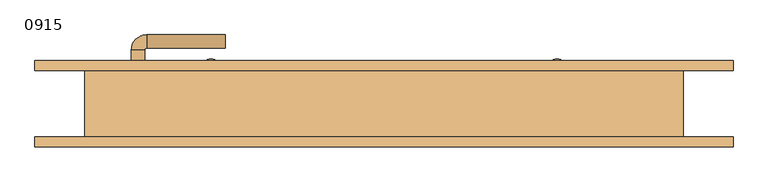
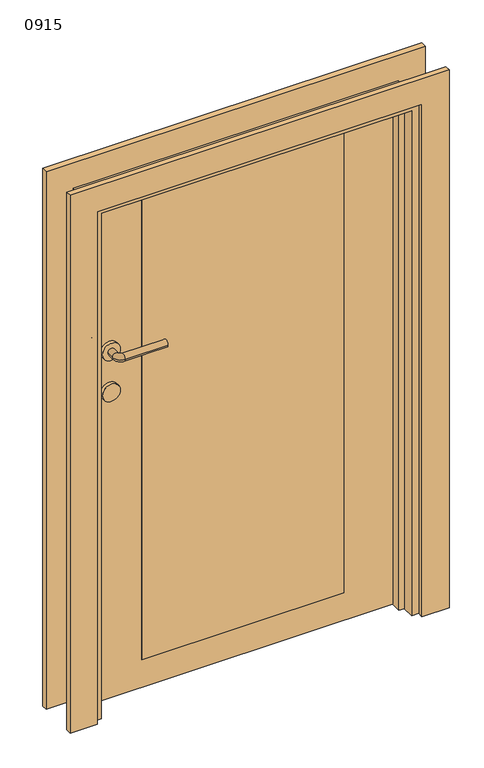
"""IFC4 building model written with IfcOpenShell, lengths in millimetres: door geometry, 单扇平开门-木门 : 0915."""

from ifc_helpers import new_model, si_unit, point, frame, frame_2d, origin, origin_with_axes, place, context, project, spatial, polyline, circle_curve, ellipse_curve, trimmed, segment, composite_curve, outline, extrude, faceted_brep, source, transform, mapped, element, save
from ifc_brep_helpers import plane_surface, cylinder_surface, revolved_surface, advanced_brep


def door_0915_3157fd55(model_context):
    return source(origin(), model_context, "Body", "SolidModel", [
        extrude(outline(composite_curve([segment(trimmed(circle_curve(frame_2d((900.0, -370.0)), 25.0), [point((900.0, -345.0))], [point((900.0, -395.0))], False, "CARTESIAN"), True, "CONTINUOUS"), segment(trimmed(circle_curve(frame_2d((900.0, -370.0)), 25.0), [point((900.0, -395.0))], [point((900.0, -345.0))], False, "CARTESIAN"), True, "CONTINUOUS")], self_intersect=False)), frame((0.0, 5.0, 0.0), z_axis=(0.0, 1.0, 0.0), x_axis=(0.0, 0.0, 1.0)), (0.0, 0.0, 1.0), 10.0),
        extrude(outline(composite_curve([segment(trimmed(circle_curve(frame_2d((900.0, -370.0)), 25.0), [point((900.0, -345.0))], [point((900.0, -395.0))], False, "CARTESIAN"), True, "CONTINUOUS"), segment(trimmed(circle_curve(frame_2d((900.0, -370.0)), 25.0), [point((900.0, -395.0))], [point((900.0, -345.0))], False, "CARTESIAN"), True, "CONTINUOUS")], self_intersect=False)), frame((0.0, 50.0, 0.0), z_axis=(0.0, 1.0, 0.0), x_axis=(0.0, 0.0, 1.0)), (0.0, 0.0, 1.0), 10.0),
        advanced_brep(
        [(-380.0, 5.0, 1020.0), (-360.0, 5.0, 1020.0), (-360.0, -15.613355, 1020.0), (-380.0, -15.613355, 1020.0), (-238.419036, -38.580964, 1020.0), (-238.419036, -18.580964, 1020.0), (-357.0323911, -18.580964, 1020.0), (-357.0323911, -38.580964, 1020.0)],
        [
            (0, 1, circle_curve(frame((-370.0, 5.0, 1020.0), z_axis=(0.0, 1.0, 0.0), x_axis=(1.0, 0.0, 0.0)), 10.0)),
            (1, 0, circle_curve(frame((-370.0, 5.0, 1020.0), z_axis=(0.0, 1.0, 0.0), x_axis=(1.0, 0.0, 0.0)), 10.0)),
            (1, 2),
            (2, 3, circle_curve(frame((-370.0, -15.613355, 1020.0), z_axis=(0.0, 1.0, 0.0), x_axis=(1.0, 0.0, 0.0)), 10.0)),
            (3, 0),
            (3, 2, circle_curve(frame((-370.0, -15.613355, 1020.0), z_axis=(0.0, 1.0, 0.0), x_axis=(1.0, 0.0, 0.0)), 10.0)),
            (4, 5, circle_curve(frame((-238.419036, -28.580964, 1020.0), z_axis=(1.0, 0.0, 0.0), x_axis=(0.0, 1.0, 0.0)), 10.0)),
            (5, 4, circle_curve(frame((-238.419036, -28.580964, 1020.0), z_axis=(1.0, 0.0, 0.0), x_axis=(0.0, 1.0, 0.0)), 10.0)),
            (6, 2, circle_curve(frame((-357.0323911, -15.613355, 1020.0), z_axis=(0.0, 0.0, -1.0), x_axis=(-1.0, 0.0, 0.0)), 2.9676089)),
            (3, 7, circle_curve(frame((-357.0323911, -15.613355, 1020.0), z_axis=(0.0, 0.0, 1.0), x_axis=(-1.0, 0.0, 0.0)), 22.9676089)),
            (7, 6, circle_curve(frame((-357.0323911, -28.580964, 1020.0), z_axis=(-1.0, 0.0, 0.0), x_axis=(0.0, 1.0, 0.0)), 10.0)),
            (6, 7, circle_curve(frame((-357.0323911, -28.580964, 1020.0), z_axis=(-1.0, 0.0, 0.0), x_axis=(0.0, 1.0, 0.0)), 10.0)),
            (7, 4),
            (5, 6),
        ],
        [
            plane_surface(frame((-370.0, 5.0, 900.0), z_axis=(0.0, 1.0, 0.0), x_axis=(0.0, 0.0, 1.0))),
            cylinder_surface(frame((-370.0, 5.0, 1020.0), z_axis=(0.0, 1.0, 0.0), x_axis=(1.0, 0.0, 0.0)), 10.0),
            plane_surface(frame((-238.419036, -28.580964, 900.0), z_axis=(1.0, 0.0, 0.0), x_axis=(0.0, 0.0, 1.0))),
            revolved_surface(trimmed(ellipse_curve(frame((-370.0, -15.613355, 1020.0), z_axis=(0.0, 1.0, 0.0), x_axis=(1.0, 0.0, 0.0)), 10.0, 10.0), [point((-380.0, -15.613355, 1020.0))], [point((-360.0, -15.613355, 1020.0))], True, "CARTESIAN"), (-357.0323911, -15.613355, 900.0), (0.0, 0.0, 1.0)),
            revolved_surface(trimmed(ellipse_curve(frame((-370.0, -15.613355, 1020.0), z_axis=(0.0, 1.0, 0.0), x_axis=(1.0, 0.0, 0.0)), 10.0, 10.0), [point((-360.0, -15.613355, 1020.0))], [point((-380.0, -15.613355, 1020.0))], True, "CARTESIAN"), (-357.0323911, -15.613355, 900.0), (0.0, 0.0, 1.0)),
            cylinder_surface(frame((-357.0323911, -28.580964, 1020.0), z_axis=(-1.0, 0.0, 0.0), x_axis=(0.0, 1.0, 0.0)), 10.0),
        ],
        [
            (0, [[1, 2]]),
            (1, [[-2, 3, 4, 5]]),
            (1, [[-1, -5, 6, -3]]),
            (2, [[7, 8]]),
            (3, [[9, -6, 10, 11]]),
            (4, [[-10, -4, -9, 12]]),
            (5, [[-11, 13, -8, 14]]),
            (5, [[-12, -14, -7, -13]]),
        ],
    ),
        extrude(outline(composite_curve([segment(trimmed(circle_curve(frame_2d((1020.0, -370.0)), 25.0), [point((1020.0, -345.0))], [point((1020.0, -395.0))], False, "CARTESIAN"), True, "CONTINUOUS"), segment(trimmed(circle_curve(frame_2d((1020.0, -370.0)), 25.0), [point((1020.0, -395.0))], [point((1020.0, -345.0))], False, "CARTESIAN"), True, "CONTINUOUS")], self_intersect=False)), frame((0.0, 5.0, 0.0), z_axis=(0.0, 1.0, 0.0), x_axis=(0.0, 0.0, 1.0)), (0.0, 0.0, 1.0), 10.0),
        advanced_brep(
        [(-360.0, 60.0, 1020.0), (-380.0, 60.0, 1020.0), (-360.0, 80.6133551, 1020.0), (-380.0, 80.6133551, 1020.0), (-238.419036, 83.580964, 1020.0), (-238.419036, 103.580964, 1020.0), (-357.0323911, 103.580964, 1020.0), (-357.0323911, 83.580964, 1020.0)],
        [
            (0, 1, circle_curve(frame((-370.0, 60.0, 1020.0), z_axis=(0.0, -1.0, 0.0), x_axis=(-1.0, 0.0, 0.0)), 10.0)),
            (1, 0, circle_curve(frame((-370.0, 60.0, 1020.0), z_axis=(0.0, -1.0, 0.0), x_axis=(-1.0, 0.0, 0.0)), 10.0)),
            (0, 2),
            (2, 3, circle_curve(frame((-370.0, 80.6133551, 1020.0), z_axis=(0.0, -1.0, 0.0), x_axis=(-1.0, 0.0, 0.0)), 10.0)),
            (3, 1),
            (3, 2, circle_curve(frame((-370.0, 80.6133551, 1020.0), z_axis=(0.0, -1.0, 0.0), x_axis=(-1.0, 0.0, 0.0)), 10.0)),
            (4, 5, circle_curve(frame((-238.419036, 93.580964, 1020.0), z_axis=(1.0, 0.0, 0.0), x_axis=(0.0, 1.0, 0.0)), 10.0)),
            (5, 4, circle_curve(frame((-238.419036, 93.580964, 1020.0), z_axis=(1.0, 0.0, 0.0), x_axis=(0.0, 1.0, 0.0)), 10.0)),
            (6, 3, circle_curve(frame((-357.0323911, 80.6133551, 1020.0), z_axis=(0.0, 0.0, 1.0), x_axis=(-1.0, 0.0, 0.0)), 22.9676089)),
            (2, 7, circle_curve(frame((-357.0323911, 80.6133551, 1020.0), z_axis=(0.0, 0.0, -1.0), x_axis=(-1.0, 0.0, 0.0)), 2.9676089)),
            (7, 6, circle_curve(frame((-357.0323911, 93.580964, 1020.0), z_axis=(-1.0, 0.0, 0.0), x_axis=(0.0, 1.0, 0.0)), 10.0)),
            (6, 7, circle_curve(frame((-357.0323911, 93.580964, 1020.0), z_axis=(-1.0, 0.0, 0.0), x_axis=(0.0, 1.0, 0.0)), 10.0)),
            (7, 4),
            (5, 6),
        ],
        [
            plane_surface(frame((-370.0, 60.0, 900.0), z_axis=(0.0, -1.0, 0.0), x_axis=(0.0, 0.0, 1.0))),
            cylinder_surface(frame((-370.0, 60.0, 1020.0), z_axis=(0.0, -1.0, 0.0), x_axis=(-1.0, 0.0, 0.0)), 10.0),
            plane_surface(frame((-238.419036, 93.580964, 900.0), z_axis=(1.0, 0.0, 0.0), x_axis=(0.0, 0.0, 1.0))),
            revolved_surface(trimmed(ellipse_curve(frame((-370.0, 80.6133551, 1020.0), z_axis=(0.0, -1.0, 0.0), x_axis=(-1.0, 0.0, 0.0)), 10.0, 10.0), [point((-360.0, 80.6133551, 1020.0))], [point((-380.0, 80.6133551, 1020.0))], True, "CARTESIAN"), (-357.0323911, 80.6133551, 900.0), (0.0, 0.0, -1.0)),
            revolved_surface(trimmed(ellipse_curve(frame((-370.0, 80.6133551, 1020.0), z_axis=(0.0, -1.0, 0.0), x_axis=(-1.0, 0.0, 0.0)), 10.0, 10.0), [point((-380.0, 80.6133551, 1020.0))], [point((-360.0, 80.6133551, 1020.0))], True, "CARTESIAN"), (-357.0323911, 80.6133551, 900.0), (0.0, 0.0, -1.0)),
            cylinder_surface(frame((-357.0323911, 93.580964, 1020.0), z_axis=(-1.0, 0.0, 0.0), x_axis=(0.0, 1.0, 0.0)), 10.0),
        ],
        [
            (0, [[1, 2]]),
            (1, [[-1, 3, 4, 5]]),
            (1, [[-2, -5, 6, -3]]),
            (2, [[7, 8]]),
            (3, [[9, -4, 10, 11]]),
            (4, [[-10, -6, -9, 12]]),
            (5, [[-11, 13, -8, 14]]),
            (5, [[-12, -14, -7, -13]]),
        ],
    ),
        extrude(outline(composite_curve([segment(trimmed(circle_curve(frame_2d((1020.0, -370.0)), 25.0), [point((1020.0, -345.0))], [point((1020.0, -395.0))], False, "CARTESIAN"), True, "CONTINUOUS"), segment(trimmed(circle_curve(frame_2d((1020.0, -370.0)), 25.0), [point((1020.0, -395.0))], [point((1020.0, -345.0))], False, "CARTESIAN"), True, "CONTINUOUS")], self_intersect=False)), frame((0.0, 50.0, 0.0), z_axis=(0.0, 1.0, 0.0), x_axis=(0.0, 0.0, 1.0)), (0.0, 0.0, 1.0), 10.0),
        extrude(outline(polyline([(1500.0, -450.0), (1500.0, 450.0), (0.0, 450.0), (0.0, 525.0), (1575.0, 525.0), (1575.0, -525.0), (0.0, -525.0), (0.0, -450.0), (1500.0, -450.0)])), frame((0.0, 50.0, 0.0), z_axis=(0.0, 1.0, 0.0), x_axis=(0.0, 0.0, 1.0)), (0.0, 0.0, 1.0), 15.0),
        extrude(outline(polyline([(1575.0, -525.0), (0.0, -525.0), (0.0, -450.0), (1500.0, -450.0), (1500.0, 450.0), (0.0, 450.0), (0.0, 525.0), (1575.0, 525.0), (1575.0, -525.0)])), frame((0.0, -65.0, 0.0), z_axis=(0.0, 1.0, 0.0), x_axis=(0.0, 0.0, 1.0)), (0.0, 0.0, 1.0), 15.0),
        extrude(outline(polyline([(1480.0, 430.0), (1480.0, -430.0), (0.0, -430.0), (0.0, 430.0), (1480.0, 430.0)]), holes=[polyline([(1460.0, 280.0), (80.0, 280.0), (80.0, -280.0), (1460.0, -280.0), (1460.0, 280.0)])]), frame((0.0, 15.0, 0.0), z_axis=(0.0, 1.0, 0.0), x_axis=(0.0, 0.0, 1.0)), (0.0, 0.0, 1.0), 35.0),
        extrude(outline(composite_curve([segment(polyline([(-280.0, 50.0), (-280.0, 51.0)]), True, "CONTINUOUS"), segment(trimmed(circle_curve(frame_2d((-273.0, 51.0)), 7.0), [point((-280.0, 51.0))], [point((-273.0, 58.0))], False, "CARTESIAN"), True, "CONTINUOUS"), segment(trimmed(circle_curve(frame_2d((-260.0, 53.3201295)), 13.8166996), [point((-273.0, 58.0))], [point((-247.0, 58.0))], False, "CARTESIAN"), True, "CONTINUOUS"), segment(trimmed(circle_curve(frame_2d((-247.0, 51.0)), 7.0), [point((-247.0, 58.0))], [point((-240.0, 51.0))], False, "CARTESIAN"), True, "CONTINUOUS"), segment(polyline([(-240.0, 51.0), (-240.0, 50.0), (-280.0, 50.0)]), True, "CONTINUOUS")], self_intersect=False)), origin_with_axes(), (0.0, 0.0, 1.0), 1480.0),
        extrude(outline(composite_curve([segment(polyline([(280.0, 50.0), (240.0, 50.0), (240.0, 51.0)]), True, "CONTINUOUS"), segment(trimmed(circle_curve(frame_2d((247.0, 51.0)), 7.0), [point((240.0, 51.0))], [point((247.0, 58.0))], False, "CARTESIAN"), True, "CONTINUOUS"), segment(trimmed(circle_curve(frame_2d((260.0, 53.3201295)), 13.8166996), [point((247.0, 58.0))], [point((273.0, 58.0))], False, "CARTESIAN"), True, "CONTINUOUS"), segment(trimmed(circle_curve(frame_2d((273.0, 51.0)), 7.0), [point((273.0, 58.0))], [point((280.0, 51.0))], False, "CARTESIAN"), True, "CONTINUOUS"), segment(polyline([(280.0, 51.0), (280.0, 50.0)]), True, "CONTINUOUS")], self_intersect=False)), origin_with_axes(), (0.0, 0.0, 1.0), 1480.0),
        extrude(outline(polyline([(280.0, 50.0), (280.0, 15.0), (-280.0, 15.0), (-280.0, 50.0), (280.0, 50.0)])), frame((0.0, 0.0, 80.0), z_axis=(0.0, 0.0, 1.0), x_axis=(1.0, 0.0, 0.0)), (0.0, 0.0, 1.0), 1380.0),
        faceted_brep([(450.0, 50.0, 0.0), (450.0, -50.0, 0.0), (430.0, -50.0, 0.0), (430.0, -15.0, 0.0), (415.0, -15.0, 0.0), (415.0, 15.0, 0.0), (430.0, 15.0, 0.0), (430.0, 50.0, 0.0), (450.0, 50.0, 1500.0), (450.0, -50.0, 1500.0), (-450.0, -50.0, 1500.0), (-450.0, -50.0, 0.0), (-430.0, -50.0, 0.0), (-430.0, -50.0, 1480.0), (430.0, -50.0, 1480.0), (430.0, -15.0, 1480.0), (-430.0, -15.0, 1480.0), (-430.0, -15.0, 0.0), (-415.0, -15.0, 0.0), (-415.0, -15.0, 1465.0), (415.0, -15.0, 1465.0), (415.0, 15.0, 1465.0), (-415.0, 15.0, 1465.0), (-415.0, 15.0, 0.0), (-430.0, 15.0, 0.0), (-430.0, 15.0, 1480.0), (430.0, 15.0, 1480.0), (430.0, 50.0, 1480.0), (-430.0, 50.0, 1480.0), (-430.0, 50.0, 0.0), (-450.0, 50.0, 0.0), (-450.0, 50.0, 1500.0)], [[[0, 1, 2, 3, 4, 5, 6, 7]], [[1, 0, 8, 9]], [[2, 1, 9, 10, 11, 12, 13, 14]], [[3, 2, 14, 15]], [[4, 3, 15, 16, 17, 18, 19, 20]], [[5, 4, 20, 21]], [[6, 5, 21, 22, 23, 24, 25, 26]], [[7, 6, 26, 27]], [[0, 7, 27, 28, 29, 30, 31, 8]], [[9, 8, 31, 10]], [[15, 14, 13, 16]], [[21, 20, 19, 22]], [[27, 26, 25, 28]], [[30, 29, 24, 23, 18, 17, 12, 11]], [[10, 31, 30, 11]], [[16, 13, 12, 17]], [[22, 19, 18, 23]], [[28, 25, 24, 29]]]),
    ])


if __name__ == "__main__":
    model = new_model("IFC4")
    model_context = context("Model", 3, world=origin())
    ifc_project = project(units=[si_unit("LENGTHUNIT", "METRE", prefix="MILLI")], contexts=[model_context])
    site = spatial("IfcSite", under=ifc_project)
    building = spatial("IfcBuilding", under=site)
    placement = place(None, origin())
    door_0915_shape = door_0915_3157fd55(model_context)
    element("IfcDoor", 1, ObjectType="单扇平开门-木门 : 0915", at=placement, inside=building, context=model_context, shape_type="MappedRepresentation", body=[
        mapped(door_0915_shape, transform((0.0, 0.0, 0.0), x_axis=(1.0, 0.0, 0.0), y_axis=(0.0, 1.0, 0.0), z_axis=(0.0, 0.0, 1.0))),
    ])
    save(model, "model.ifc")
